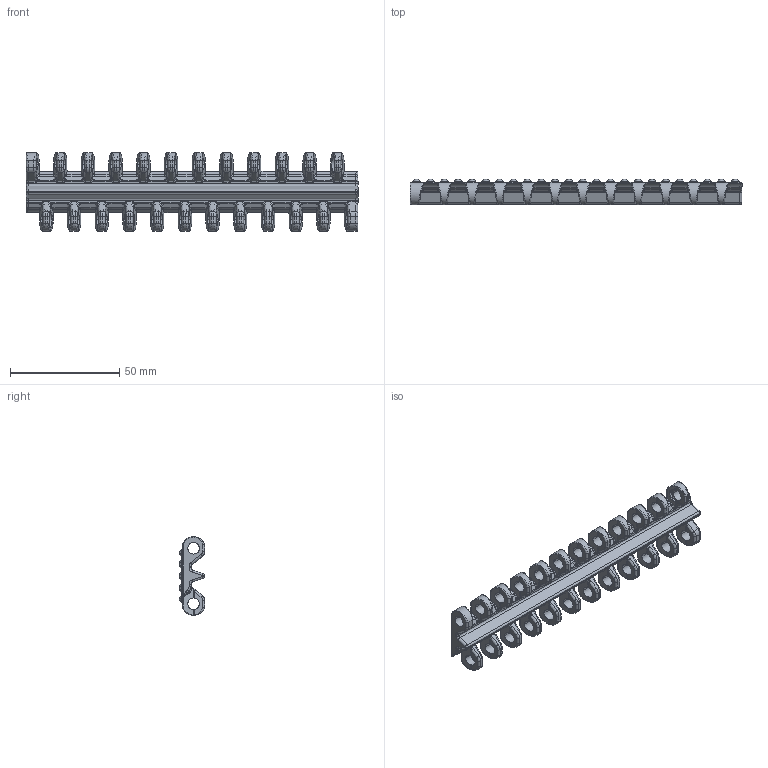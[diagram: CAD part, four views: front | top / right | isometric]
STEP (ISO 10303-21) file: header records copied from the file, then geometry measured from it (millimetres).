
FILE_DESCRIPTION((''),'2;1');
FILE_NAME('P1081','2011-10-19T',('mth'),(''),'PRO/ENGINEER BY PARAMETRIC TECHNOLOGY CORPORATION, 2010280','PRO/ENGINEER BY PARAMETRIC TECHNOLOGY CORPORATION, 2010280','');
FILE_SCHEMA(('CONFIG_CONTROL_DESIGN','SHAPE_APPEARANCE_LAYERS_GROUPS'));
Products named in the file (1): P1081
Bounding box: 152.19 x 11.7 x 36.1 mm (x, y, z)
Volume: 21515.9 mm3; surface area: 15299.9 mm2
Topology: 1 solids, 1 shells, 2088 faces, 5092 edges, 3074 vertices
Faces by surface type: bspline 818, plane 532, cylinder 526, torus 206, sphere 6
Entity records: 165646 total; most frequent: CARTESIAN_POINT 122104, ORIENTED_EDGE 10184, DIRECTION 7626, EDGE_CURVE 5092, VERTEX_POINT 3074, AXIS2_PLACEMENT_3D 2976, EDGE_LOOP 2204, FACE_OUTER_BOUND 2088
